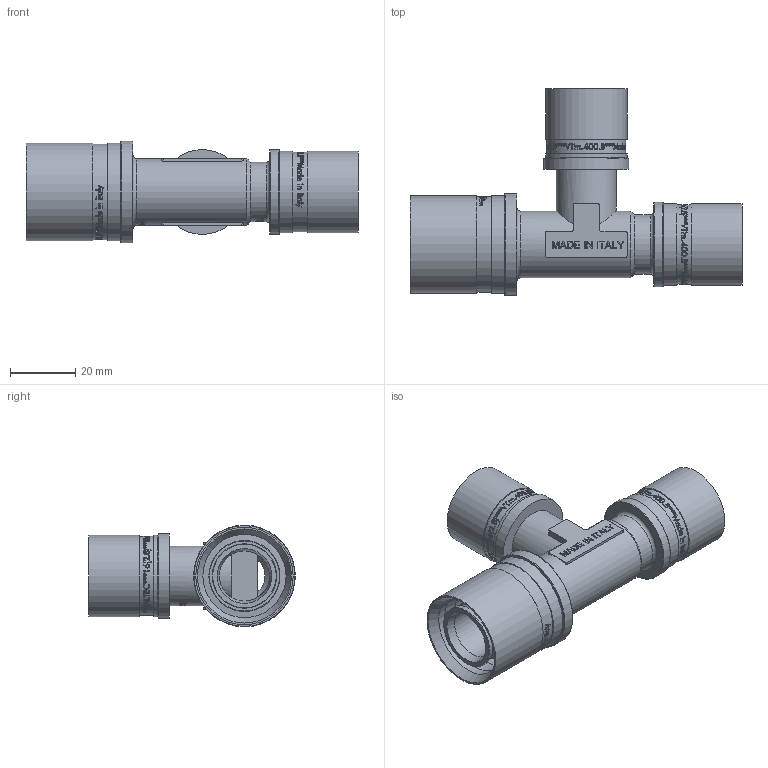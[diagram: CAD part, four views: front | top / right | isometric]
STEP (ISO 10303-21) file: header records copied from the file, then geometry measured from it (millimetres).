
FILE_DESCRIPTION(/* description */ (''),/* implementation_level */ '2;1');
FILE_NAME(/* name */ 'F:\Артём\00000\Работа удаленка\Аксеальные фитинги\VTm.431.BG.252020.stp',/* time_stamp */ '2021-01-26T12:56:19+03:00',/* author */ ('almis'),/* organization */ (''),/* preprocessor_version */ 'ST-DEVELOPER v18',/* originating_system */ 'Autodesk Inventor 2020',/* authorisation */ '');
FILE_SCHEMA (('AUTOMOTIVE_DESIGN { 1 0 10303 214 3 1 1 }'));
Length unit declared in the file: millimetre
Products named in the file (1): VTm.403.BG.001616
Bounding box: 101.82 x 63.36 x 31.2 mm (x, y, z)
Volume: 34013.4 mm3; surface area: 29017.4 mm2
Topology: 1 solids, 3 shells, 2489 faces, 6796 edges, 4574 vertices
Faces by surface type: bspline 1267, plane 871, cylinder 284, torus 46, cone 21
Full cylindrical faces by diameter (mm): 12.6 x2, 15.4 x1, 15.7 x10, 16.5 x8, 18.2 x3, 18.3 x6, 19.8 x4, 20.5 x1, 20.65 x4, 21.8 x1, 24.3 x2, 25 x4, 25.5 x2, 26 x2, 29.3 x1, 29.85 x2, 31.2 x1
Entity records: 102912 total; most frequent: CARTESIAN_POINT 47356, ORIENTED_EDGE 13592, DIRECTION 7828, EDGE_CURVE 6796, VERTEX_POINT 4574, LINE 3058, VECTOR 3058, EDGE_LOOP 2752
